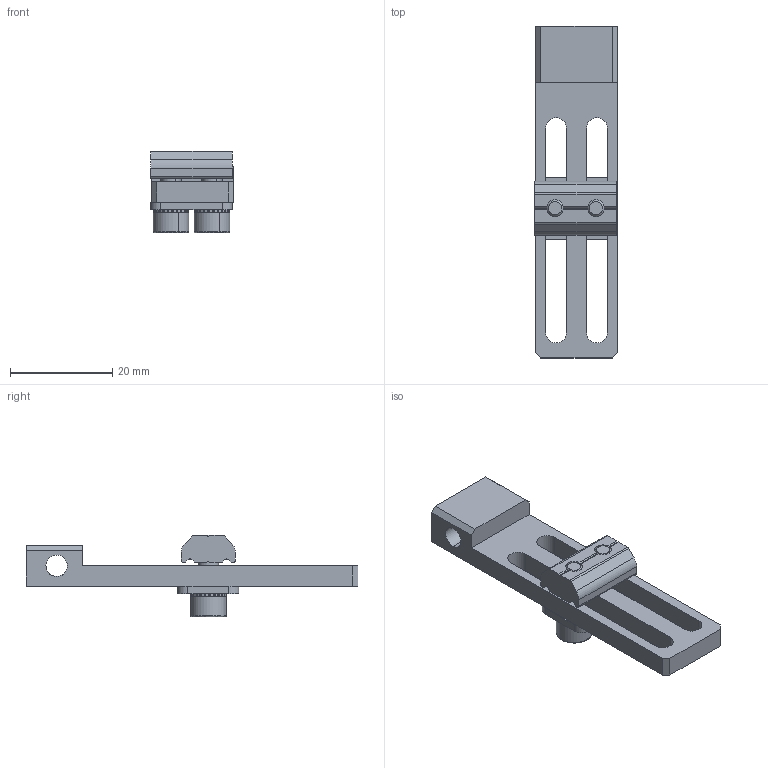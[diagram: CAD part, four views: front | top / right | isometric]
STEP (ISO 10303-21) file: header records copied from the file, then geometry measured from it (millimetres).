
FILE_DESCRIPTION (( 'STEP AP214' ), '1' );
FILE_NAME ('SVC-M5.STEP', '2019-11-07T03:00:11', ( '微软用户' ), ( '微软中国' ), 'SwSTEP 2.0', 'SolidWorks 2016', '' );
FILE_SCHEMA (( 'AUTOMOTIVE_DESIGN' ));
Length unit declared in the file: millimetre
Products named in the file (1): SVC-M5
Bounding box: 16.2 x 65 x 16 mm (x, y, z)
Volume: 4693.3 mm3; surface area: 5060 mm2
Topology: 7 solids, 7 shells, 516 faces, 1497 edges, 990 vertices
Faces by surface type: plane 454, cylinder 54, cone 4, bspline 4
Entity records: 23205 total; most frequent: CARTESIAN_POINT 3456, ORIENTED_EDGE 2994, DIRECTION 2949, EDGE_CURVE 1497, VERTEX_POINT 990, AXIS2_PLACEMENT_3D 983, VECTOR 983, LINE 983
